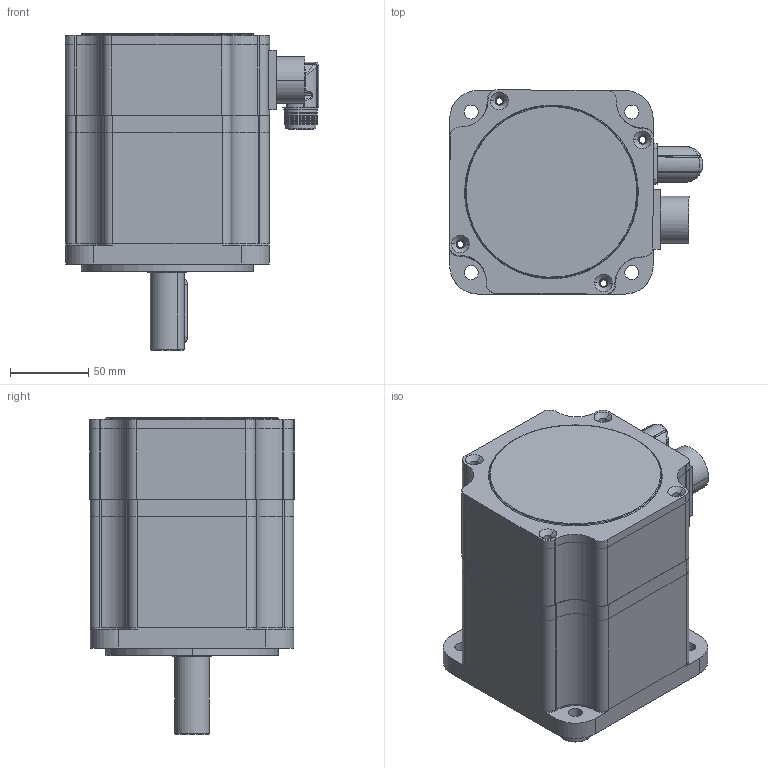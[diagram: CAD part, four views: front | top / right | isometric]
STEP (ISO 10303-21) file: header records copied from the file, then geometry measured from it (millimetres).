
FILE_DESCRIPTION (( 'STEP AP203' ), '1' );
FILE_NAME ('9.6964.STEP', '2018-08-17T07:39:59', ( '' ), ( '' ), 'SwSTEP 2.0', 'SolidWorks 2008', '' );
FILE_SCHEMA (( 'CONFIG_CONTROL_DESIGN' ));
Length unit declared in the file: millimetre
Products named in the file (1): 9.6964
Bounding box: 161.98 x 130.63 x 202 mm (x, y, z)
Surface area: 141216 mm2 (no closed solid volume)
Topology: 0 solids, 32 shells, 494 faces, 1441 edges, 968 vertices
Faces by surface type: cylinder 295, plane 148, bspline 31, cone 20
Entity records: 18274 total; most frequent: CARTESIAN_POINT 5015, DIRECTION 2976, ORIENTED_EDGE 2486, EDGE_CURVE 1407, AXIS2_PLACEMENT_3D 1173, VERTEX_POINT 968, CIRCLE 709, VECTOR 630
